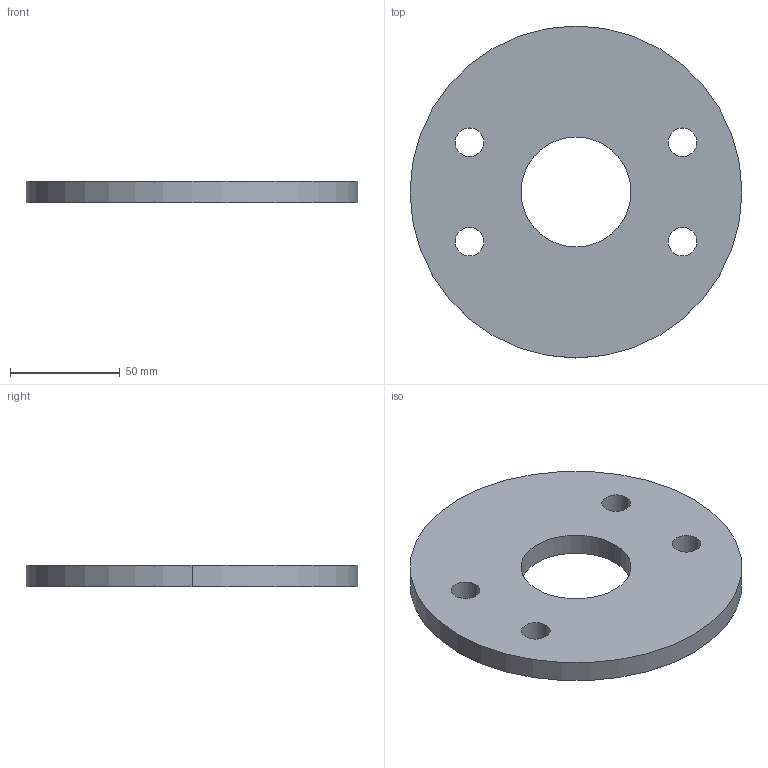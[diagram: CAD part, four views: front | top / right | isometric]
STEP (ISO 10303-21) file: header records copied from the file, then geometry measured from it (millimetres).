
FILE_DESCRIPTION (( 'STEP AP203' ), '1' );
FILE_NAME ('Kreissscheibe M12.STEP', '2018-02-22T05:49:42', ( 'install' ), ( 'Hewlett-Packard Company' ), 'SwSTEP 2.0', 'SolidWorks 2017', '' );
FILE_SCHEMA (( 'CONFIG_CONTROL_DESIGN' ));
Length unit declared in the file: millimetre
Products named in the file (1): Kreissscheibe M12
Bounding box: 151 x 151 x 10 mm (x, y, z)
Volume: 154134.4 mm3; surface area: 38775.1 mm2
Topology: 1 solids, 1 shells, 14 faces, 36 edges, 24 vertices
Faces by surface type: cylinder 12, plane 2
Entity records: 541 total; most frequent: DIRECTION 90, CARTESIAN_POINT 75, ORIENTED_EDGE 72, AXIS2_PLACEMENT_3D 39, EDGE_CURVE 36, CIRCLE 24, VERTEX_POINT 24, EDGE_LOOP 24
